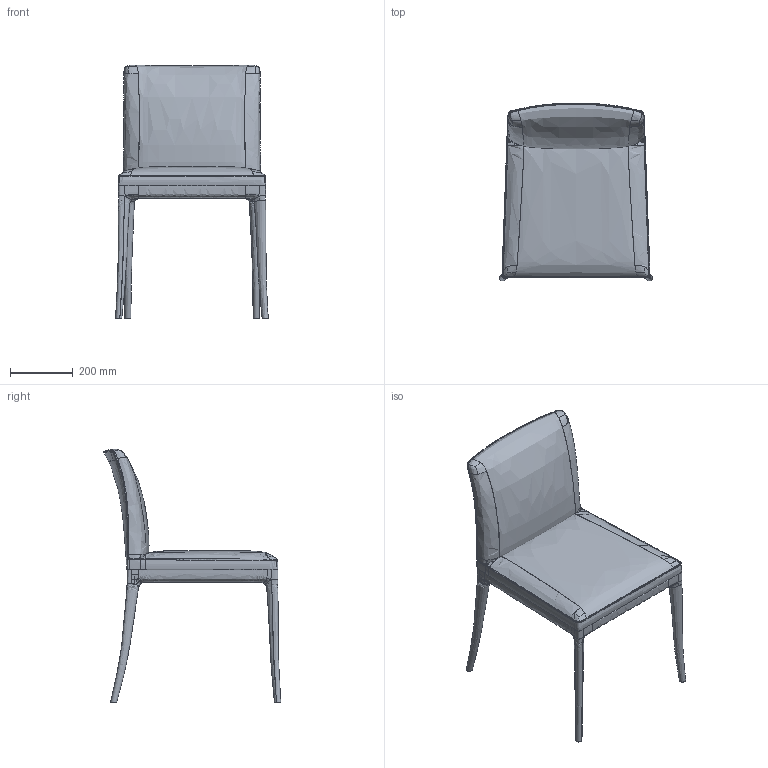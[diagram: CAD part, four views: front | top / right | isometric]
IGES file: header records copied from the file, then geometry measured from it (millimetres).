
Global section: file name: K:\Marketing\marketing\2D-3D PRODOTTI\2026_NUOVI PRODOTTI\Lillybet\Lillybet\Lillybet.igs; native system: Rhinoceros ( Jun  9 2026 ); preprocessor: Trout Lake IGES 012 Jun  9 2026; date: 260825.123548; units: millimetre
Bounding box: 486.88 x 565.28 x 806.92 mm (x, y, z)
Surface area: 1313648.4 mm2 (no closed solid volume)
Topology: 0 solids, 0 shells, 165 faces, 959 edges, 955 vertices
Faces by surface type: bspline 165
